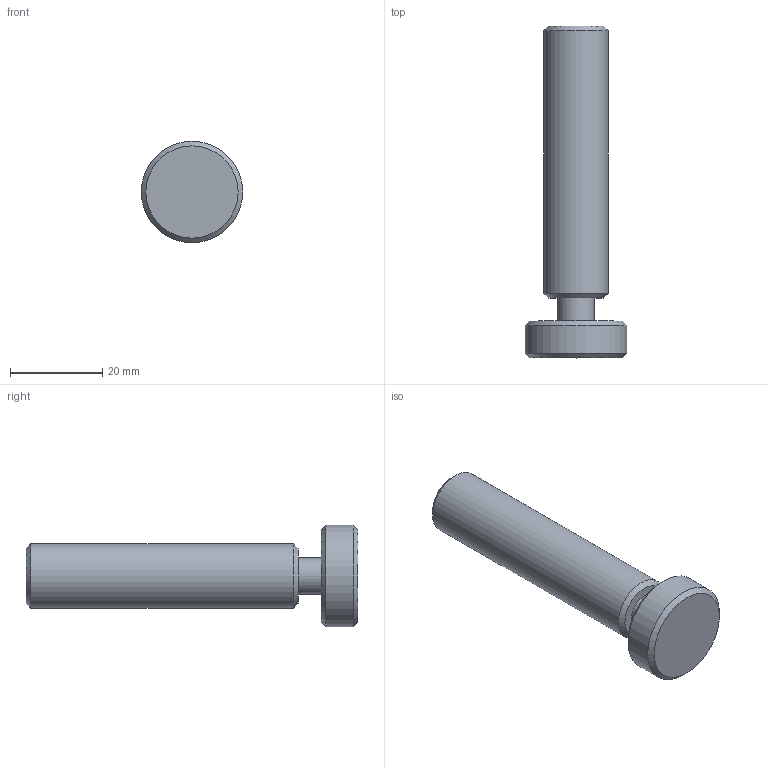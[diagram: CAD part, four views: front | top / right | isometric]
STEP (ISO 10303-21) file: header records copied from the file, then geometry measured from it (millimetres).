
FILE_DESCRIPTION(/* description */ (''),/* implementation_level */ '2;1');
FILE_NAME(/* name */ '',/* time_stamp */ '2024-07-17T10:27:09+09:00',/* author */ ('jhkim'),/* organization */ (''),/* preprocessor_version */ 'ST-DEVELOPER v20',/* originating_system */ 'Autodesk Inventor 2025',/* authorisation */ '');
FILE_SCHEMA (('AUTOMOTIVE_DESIGN { 1 0 10303 214 3 1 1 }'));
Length unit declared in the file: millimetre
Products named in the file (1): 슬라이드
Bounding box: 22 x 72 x 22 mm (x, y, z)
Volume: 12099.2 mm3; surface area: 4261.5 mm2
Topology: 1 solids, 1 shells, 13 faces, 24 edges, 15 vertices
Faces by surface type: cone 5, cylinder 4, plane 4
Full cylindrical faces by diameter (mm): 4.134 x1, 8 x1, 14 x1, 22 x1
Entity records: 366 total; most frequent: DIRECTION 65, CARTESIAN_POINT 52, ORIENTED_EDGE 46, AXIS2_PLACEMENT_3D 28, EDGE_CURVE 23, EDGE_LOOP 16, VERTEX_POINT 15, CIRCLE 14
